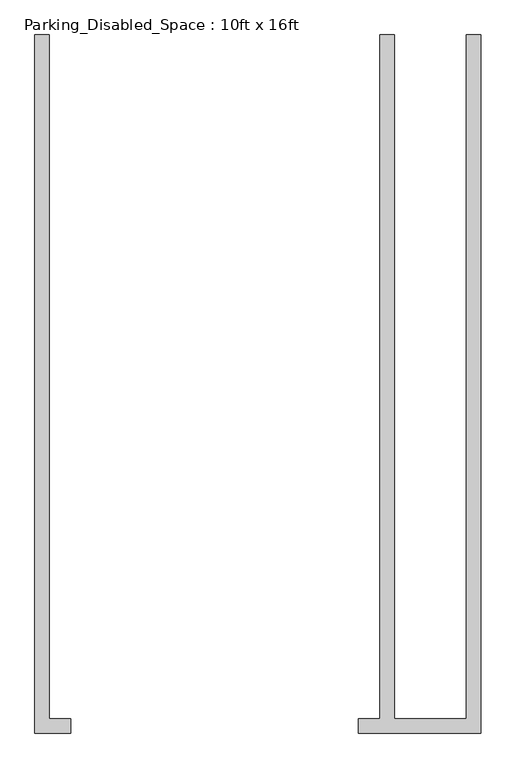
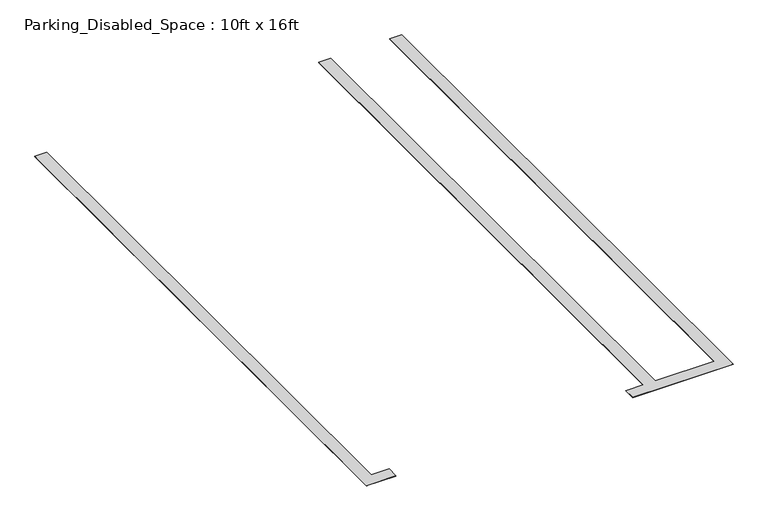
"""IFC4 building model written with IfcOpenShell, lengths in millimetres: proxy geometry, Parking_Disabled_Space : 10ft x 16ft."""

from ifc_helpers import new_model, si_unit, origin, origin_with_axes, place, context, project, spatial, polyline, outline, extrude, source, transform, mapped, element, save


def parking_disabled_space_10ft_x_16ft_7947ec24(model_context):
    return source(origin(), model_context, "Body", "SweptSolid", [
        extrude(outline(polyline([(2950.0, 0.0), (3050.0, 0.0), (3050.0, -4850.0), (2200.0, -4850.0), (2200.0, -4750.0), (2350.0, -4750.0), (2350.0, 0.0), (2450.0, 0.0), (2450.0, -4750.0), (2950.0, -4750.0), (2950.0, 0.0)])), origin_with_axes(), (0.0, 0.0, 1.0), 3.175),
        extrude(outline(polyline([(-50.0, 0.0), (50.0, 0.0), (50.0, -4750.0), (200.0, -4750.0), (200.0, -4850.0), (-50.0, -4850.0), (-50.0, 0.0)])), origin_with_axes(), (0.0, 0.0, 1.0), 3.175),
    ])


if __name__ == "__main__":
    model = new_model("IFC4")
    model_context = context("Model", 3, world=origin())
    ifc_project = project(units=[si_unit("LENGTHUNIT", "METRE", prefix="MILLI")], contexts=[model_context])
    site = spatial("IfcSite", under=ifc_project)
    building = spatial("IfcBuilding", under=site)
    placement = place(None, origin())
    parking_disabled_space_10ft_x_16ft_shape = parking_disabled_space_10ft_x_16ft_7947ec24(model_context)
    element("IfcBuildingElementProxy", 1, Name="Parking_Disabled_Space : 10ft x 16ft", ObjectType="Parking_Disabled_Space : 10ft x 16ft", at=placement, inside=building, context=model_context, shape_type="MappedRepresentation", body=[
        mapped(parking_disabled_space_10ft_x_16ft_shape, transform((0.0, 0.0, 0.0), x_axis=(1.0, 0.0, 0.0), y_axis=(0.0, 1.0, 0.0), z_axis=(0.0, 0.0, 1.0))),
    ])
    save(model, "model.ifc")
